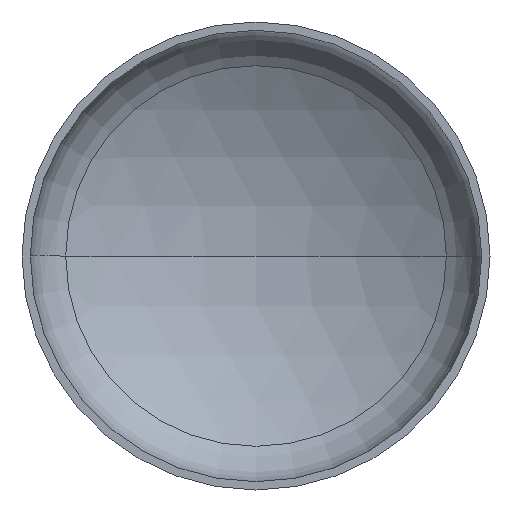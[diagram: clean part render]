
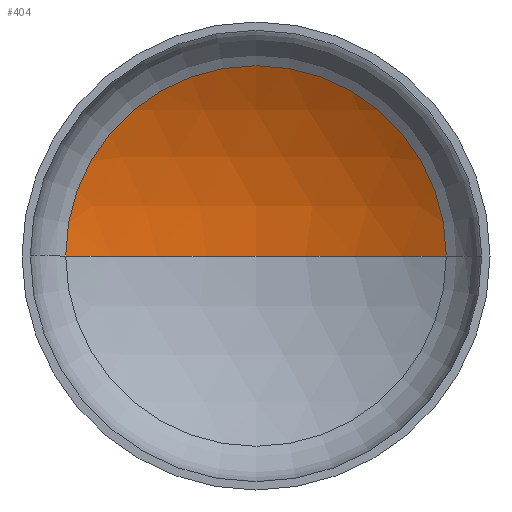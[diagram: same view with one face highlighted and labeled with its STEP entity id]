
A CAD part, front view. The second image highlights one B-rep face of the part: STEP entity #404.
In plain terms, the highlighted spherical face has radius 1120 mm.
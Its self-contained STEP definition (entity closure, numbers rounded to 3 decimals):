
#7 = EDGE_LOOP ( 'NONE', ( #85, #60, #15 ) ) ;
#15 = ORIENTED_EDGE ( 'NONE', *, *, #99, .T. ) ;
#18 = DIRECTION ( 'NONE',  ( 0., 0., -1. ) ) ;
#23 = VERTEX_POINT ( 'NONE', #361 ) ;
#24 = CARTESIAN_POINT ( 'NONE',  ( 0., -704.375, 0. ) ) ;
#32 = AXIS2_PLACEMENT_3D ( 'NONE', #213, #215, #231 ) ;
#37 = AXIS2_PLACEMENT_3D ( 'NONE', #24, #18, #59 ) ;
#41 = AXIS2_PLACEMENT_3D ( 'NONE', #206, #208, #210 ) ;
#59 = DIRECTION ( 'NONE',  ( -1., 0., 0. ) ) ;
#60 = ORIENTED_EDGE ( 'NONE', *, *, #140, .T. ) ;
#85 = ORIENTED_EDGE ( 'NONE', *, *, #157, .F. ) ;
#99 = EDGE_CURVE ( 'NONE', #380, #23, #355, .T. ) ;
#119 = VERTEX_POINT ( 'NONE', #211 ) ;
#140 = EDGE_CURVE ( 'NONE', #119, #380, #235, .T. ) ;
#157 = EDGE_CURVE ( 'NONE', #119, #23, #403, .T. ) ;
#168 = DIRECTION ( 'NONE',  ( 0., 0., -1. ) ) ;
#185 = CARTESIAN_POINT ( 'NONE',  ( 569.282, 260.155, 0. ) ) ;
#206 = CARTESIAN_POINT ( 'NONE',  ( 0., 260.155, 0. ) ) ;
#208 = DIRECTION ( 'NONE',  ( 0., -1., 0. ) ) ;
#210 = DIRECTION ( 'NONE',  ( 1., 0., 0. ) ) ;
#211 = CARTESIAN_POINT ( 'NONE',  ( 0., 415.625, 0. ) ) ;
#213 = CARTESIAN_POINT ( 'NONE',  ( 0., -704.375, 0. ) ) ;
#215 = DIRECTION ( 'NONE',  ( 0., 0., 1. ) ) ;
#231 = DIRECTION ( 'NONE',  ( 1., 0., 0. ) ) ;
#235 = CIRCLE ( 'NONE', #37, 1120. ) ;
#241 = AXIS2_PLACEMENT_3D ( 'NONE', #254, #168, #340 ) ;
#254 = CARTESIAN_POINT ( 'NONE',  ( 0., -704.375, 0. ) ) ;
#288 = SPHERICAL_SURFACE ( 'NONE', #241, 1120. ) ;
#340 = DIRECTION ( 'NONE',  ( -1., 0., 0. ) ) ;
#355 = CIRCLE ( 'NONE', #41, 569.282 ) ;
#361 = CARTESIAN_POINT ( 'NONE',  ( -569.282, 260.155, 0. ) ) ;
#380 = VERTEX_POINT ( 'NONE', #185 ) ;
#403 = CIRCLE ( 'NONE', #32, 1120. ) ;
#404 = ADVANCED_FACE ( 'NONE', ( #408 ), #288, .F. ) ;
#408 = FACE_OUTER_BOUND ( 'NONE', #7, .T. ) ;
